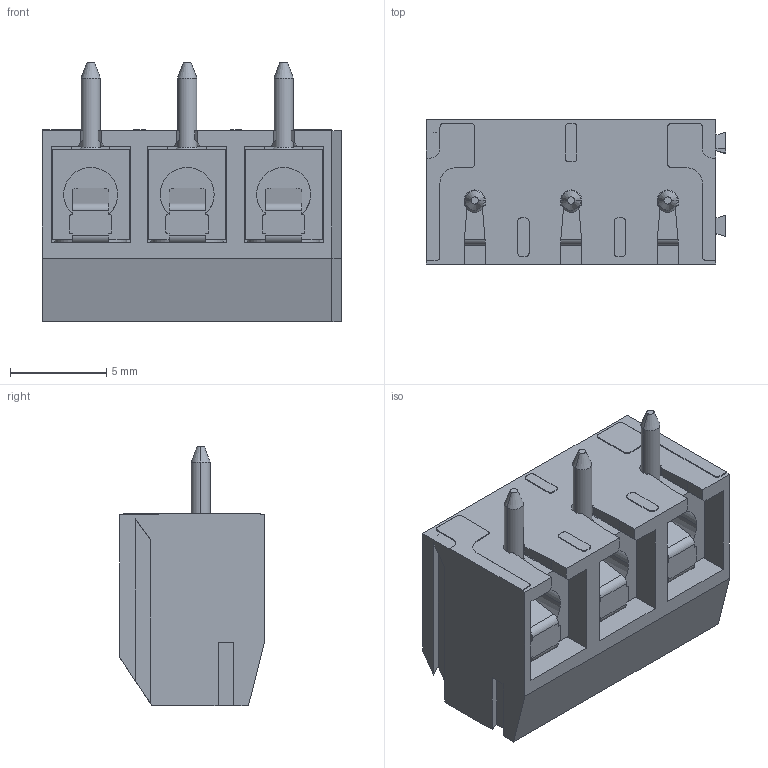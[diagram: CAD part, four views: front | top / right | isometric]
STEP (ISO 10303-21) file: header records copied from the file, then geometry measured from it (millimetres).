
FILE_DESCRIPTION((''),'2;1');
FILE_NAME('TC030302A500G','2017-08-16T',('exploitation'),(''),'CREO PARAMETRIC BY PTC INC, 2014500','CREO PARAMETRIC BY PTC INC, 2014500','');
FILE_SCHEMA(('CONFIG_CONTROL_DESIGN'));
Length unit declared in the file: millimetre
Products named in the file (1): TC030302A500G
Bounding box: 15.5 x 7.5 x 13.45 mm (x, y, z)
Volume: 759.7 mm3; surface area: 1919.9 mm2
Topology: 1 solids, 1 shells, 587 faces, 1691 edges, 1114 vertices
Faces by surface type: plane 287, cylinder 180, bspline 63, cone 33, torus 24
Entity records: 29191 total; most frequent: CARTESIAN_POINT 14368, ORIENTED_EDGE 3366, DIRECTION 2686, EDGE_CURVE 1683, VERTEX_POINT 1112, AXIS2_PLACEMENT_3D 899, VECTOR 888, LINE 888
